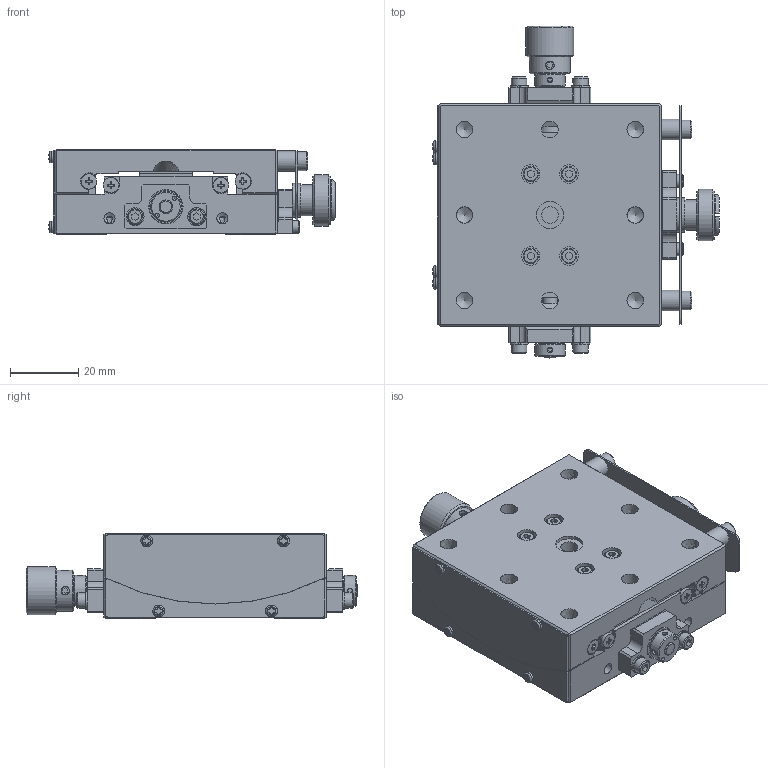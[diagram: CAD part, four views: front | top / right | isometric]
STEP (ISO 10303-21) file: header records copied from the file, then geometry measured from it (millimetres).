
FILE_DESCRIPTION((''),'2;1');
FILE_NAME('Y:\3DDATA\2_OpticalHard\02_海外製品\1_Stags\GOHT\□65\GOHT-65A50BR-M6\中間ファイル\GOHT-65A50BR-M6.stp','2014-05-13T19:43:16',('t.mukai'),(''),'Autodesk Inventor 2008','Autodesk Inventor 2008','');
FILE_SCHEMA(('AUTOMOTIVE_DESIGN { 1 0 10303 214 1 1 1 1 }'));
Length unit declared in the file: millimetre
Products named in the file (3): GOHT65A50BR-M6-M02-08001-ST01; GOHT65A50BR-M6-M02-14001-S02; GOHT65A50BR-M6-M02-14001-S04
Assembly tree (2 placements, depth 2):
  GOHT65A50BR-M6-M02-08001-ST01
    GOHT65A50BR-M6-M02-14001-S02
    GOHT65A50BR-M6-M02-14001-S04
Bounding box: 83.74 x 97.1 x 25 mm (x, y, z)
Volume: 88419.8 mm3; surface area: 41417.4 mm2
Topology: 2 solids, 43 shells, 1079 faces, 2675 edges, 1741 vertices
Faces by surface type: plane 586, bspline 212, cylinder 175, cone 61, torus 33, sphere 12
Full cylindrical faces by diameter (mm): 1.5 x8, 2 x6, 2.459 x2, 2.5 x8, 3 x3, 3.8 x2, 4 x6, 4.2 x2, 4.5 x16, 5.2 x1, 5.5 x2, 5.8 x2, 5.92 x8, 6 x2, 6.9 x2, 7 x4, 8 x2, 8.08 x4, 8.484 x4, 9 x3, 10 x2, 12 x5, 14 x1, 15 x1
Entity records: 34228 total; most frequent: CARTESIAN_POINT 11606, DIRECTION 4496, ORIENTED_EDGE 4230, EDGE_CURVE 2115, AXIS2_PLACEMENT_3D 1690, EDGE_LOOP 1594, VERTEX_POINT 1529, VECTOR 1116
